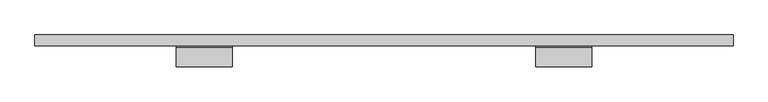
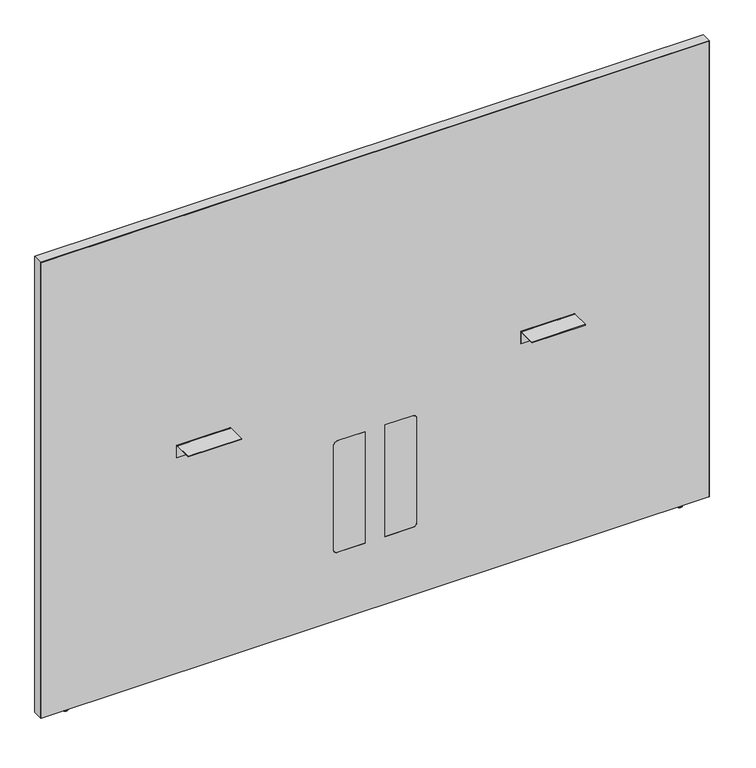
"""IFC4 building model written with IfcOpenShell, lengths in millimetres: furniture geometry, Steelcase - Answer Solution - Boundary Screen - Straight - Spanning : 54H x 75W."""

from ifc_helpers import new_model, si_unit, point, frame, frame_2d, origin, place, context, project, spatial, polyline, circle_curve, ellipse_curve, trimmed, segment, composite_curve, outline, extrude, source, transform, mapped, element, save
from ifc_brep_helpers import plane_surface, cylinder_surface, revolved_surface, advanced_brep


def furniture_78d4702f(model_context):
    return source(origin(), model_context, "Body", "SolidModel", [
        advanced_brep(
        [(-645.4902705, -14.8449166, 9.9059849), (-645.4902705, -5.9309607, 9.9059849), (-645.4902705, -23.7588726, 9.9059849), (-645.4902705, -5.9309607, 2.9673238), (-645.4902705, -23.7588726, 2.9673238), (-645.4902705, -6.8982978, 2.9673238), (-645.4902705, -22.7915354, 2.9673238), (-645.4902705, -6.8982978, 1.6569081), (-645.4902705, -22.7915354, 1.6569081), (-645.4902705, -8.5552059, 0.0), (-645.4902705, -21.1346274, 0.0), (-645.4902705, -14.8449166, 0.0)],
        [
            (0, 1),
            (1, 2, circle_curve(frame((-645.4902705, -14.8449166, 9.9059849), z_axis=(0.0, 0.0, 1.0), x_axis=(0.0, 1.0, 0.0)), 8.913956)),
            (2, 0),
            (2, 1, circle_curve(frame((-645.4902705, -14.8449166, 9.9059849), z_axis=(0.0, 0.0, 1.0), x_axis=(0.0, 1.0, 0.0)), 8.913956)),
            (1, 3),
            (3, 4, circle_curve(frame((-645.4902705, -14.8449166, 2.9673238), z_axis=(0.0, 0.0, 1.0), x_axis=(0.0, 1.0, 0.0)), 8.913956)),
            (4, 2),
            (4, 3, circle_curve(frame((-645.4902705, -14.8449166, 2.9673238), z_axis=(0.0, 0.0, 1.0), x_axis=(0.0, 1.0, 0.0)), 8.913956)),
            (3, 5),
            (5, 6, circle_curve(frame((-645.4902705, -14.8449166, 2.9673238), z_axis=(0.0, 0.0, 1.0), x_axis=(0.0, 1.0, 0.0)), 7.9466188)),
            (6, 4),
            (6, 5, circle_curve(frame((-645.4902705, -14.8449166, 2.9673238), z_axis=(0.0, 0.0, 1.0), x_axis=(0.0, 1.0, 0.0)), 7.9466188)),
            (5, 7),
            (7, 8, circle_curve(frame((-645.4902705, -14.8449166, 1.6569081), z_axis=(0.0, 0.0, 1.0), x_axis=(0.0, 1.0, 0.0)), 7.9466188)),
            (8, 6),
            (8, 7, circle_curve(frame((-645.4902705, -14.8449166, 1.6569081), z_axis=(0.0, 0.0, 1.0), x_axis=(0.0, 1.0, 0.0)), 7.9466188)),
            (7, 9, circle_curve(frame((-645.4902705, -8.5552059, 1.6569081), z_axis=(-1.0, 0.0, 0.0), x_axis=(0.0, 1.0, 0.0)), 1.6569081)),
            (9, 10, circle_curve(frame((-645.4902705, -14.8449166, 0.0), z_axis=(0.0, 0.0, 1.0), x_axis=(0.0, 1.0, 0.0)), 6.2897107)),
            (10, 8, circle_curve(frame((-645.4902705, -21.1346274, 1.6569081), z_axis=(-1.0, 0.0, 0.0), x_axis=(0.0, -1.0, 0.0)), 1.6569081)),
            (10, 9, circle_curve(frame((-645.4902705, -14.8449166, 0.0), z_axis=(0.0, 0.0, 1.0), x_axis=(0.0, 1.0, 0.0)), 6.2897107)),
            (9, 11),
            (11, 10),
        ],
        [
            plane_surface(frame((-645.4902705, -14.8449166, 9.9059849), z_axis=(0.0, 0.0, 1.0), x_axis=(0.0, 1.0, 0.0))),
            cylinder_surface(frame((-645.4902705, -14.8449166, 9.9059849), z_axis=(0.0, 0.0, 1.0), x_axis=(0.0, 1.0, 0.0)), 8.913956),
            plane_surface(frame((-645.4902705, -14.8449166, 2.9673238), z_axis=(0.0, 0.0, -1.0), x_axis=(0.0, 1.0, 0.0))),
            cylinder_surface(frame((-645.4902705, -14.8449166, 9.9059849), z_axis=(0.0, 0.0, 1.0), x_axis=(0.0, 1.0, 0.0)), 7.9466188),
            revolved_surface(trimmed(ellipse_curve(frame((-645.4902705, -8.5552059, 1.6569081), z_axis=(1.0, 0.0, 0.0), x_axis=(0.0, 1.0, 0.0)), 1.6569081, 1.6569081), [point((-645.4902705, -8.5552059, 0.0))], [point((-645.4902705, -6.8982978, 1.6569081))], True, "CARTESIAN"), (-645.4902705, -14.8449166, 9.9059849), (0.0, 0.0, 1.0)),
            plane_surface(frame((-645.4902705, -14.8449166, 0.0), z_axis=(0.0, 0.0, -1.0), x_axis=(0.0, 1.0, 0.0))),
        ],
        [
            (0, [[1, 2, 3]]),
            (0, [[-3, 4, -1]]),
            (1, [[-2, 5, 6, 7]]),
            (1, [[-4, -7, 8, -5]]),
            (2, [[-6, 9, 10, 11]]),
            (2, [[-8, -11, 12, -9]]),
            (3, [[-10, 13, 14, 15]]),
            (3, [[-12, -15, 16, -13]]),
            (4, [[-14, 17, 18, 19]]),
            (4, [[-16, -19, 20, -17]]),
            (5, [[-18, 21, 22]]),
            (5, [[-20, -22, -21]]),
        ],
    ),
        extrude(outline(composite_curve([segment(polyline([(-86.8398151, 696.4680019), (-86.8398151, 698.5), (-34.9450855, 698.5)]), True, "CONTINUOUS"), segment(trimmed(circle_curve(frame_2d((-34.9450855, 693.2447477)), 5.2552523), [point((-34.9450855, 698.5))], [point((-29.6898332, 693.2447477))], False, "CARTESIAN"), True, "CONTINUOUS"), segment(polyline([(-29.6898332, 693.2447477), (-29.6898332, 660.4), (-31.7218162, 660.4), (-31.7218162, 693.0058743)]), True, "CONTINUOUS"), segment(trimmed(circle_curve(frame_2d((-35.1839438, 693.0058743)), 3.4621276), [point((-31.7218162, 693.0058743))], [point((-35.1839438, 696.4680019))], True, "CARTESIAN"), True, "CONTINUOUS"), segment(polyline([(-35.1839438, 696.4680019), (-86.8398151, 696.4680019)]), True, "CONTINUOUS")], self_intersect=False)), frame((644.0282189, 0.0, 0.0), z_axis=(1.0, 0.0, 0.0), x_axis=(0.0, 1.0, 0.0)), (0.0, 0.0, 1.0), 152.4000969),
        extrude(outline(composite_curve([segment(polyline([(-86.8398151, 696.4680019), (-86.8398151, 698.5), (-34.9450855, 698.5)]), True, "CONTINUOUS"), segment(trimmed(circle_curve(frame_2d((-34.9450855, 693.2447477)), 5.2552523), [point((-34.9450855, 698.5))], [point((-29.6898332, 693.2447477))], False, "CARTESIAN"), True, "CONTINUOUS"), segment(polyline([(-29.6898332, 693.2447477), (-29.6898332, 660.4), (-31.7218162, 660.4), (-31.7218162, 693.0058743)]), True, "CONTINUOUS"), segment(trimmed(circle_curve(frame_2d((-35.1839438, 693.0058743)), 3.4621276), [point((-31.7218162, 693.0058743))], [point((-35.1839438, 696.4680019))], True, "CARTESIAN"), True, "CONTINUOUS"), segment(polyline([(-35.1839438, 696.4680019), (-86.8398151, 696.4680019)]), True, "CONTINUOUS")], self_intersect=False)), frame((-336.7884581, 0.0, 0.0), z_axis=(1.0, 0.0, 0.0), x_axis=(0.0, 1.0, 0.0)), (0.0, 0.0, 1.0), 152.4000969),
        advanced_brep(
        [(1105.1286488, -23.7588726, 9.9059849), (1105.1286488, -5.9309607, 9.9059849), (1105.1286488, -14.8449166, 9.9059849), (1105.1286488, -23.7588726, 2.9673238), (1105.1286488, -5.9309607, 2.9673238), (1105.1286488, -22.7915354, 2.9673238), (1105.1286488, -6.8982978, 2.9673238), (1105.1286488, -22.7915354, 1.6569081), (1105.1286488, -6.8982978, 1.6569081), (1105.1286488, -21.1346274, 0.0), (1105.1286488, -8.5552059, 0.0), (1105.1286488, -14.8449166, 0.0)],
        [
            (0, 1, circle_curve(frame((1105.1286488, -14.8449166, 9.9059849), z_axis=(0.0, 0.0, 1.0), x_axis=(0.0, 1.0, 0.0)), 8.913956)),
            (1, 2),
            (2, 0),
            (1, 0, circle_curve(frame((1105.1286488, -14.8449166, 9.9059849), z_axis=(0.0, 0.0, 1.0), x_axis=(0.0, 1.0, 0.0)), 8.913956)),
            (3, 4, circle_curve(frame((1105.1286488, -14.8449166, 2.9673238), z_axis=(0.0, 0.0, 1.0), x_axis=(0.0, 1.0, 0.0)), 8.913956)),
            (4, 1),
            (0, 3),
            (4, 3, circle_curve(frame((1105.1286488, -14.8449166, 2.9673238), z_axis=(0.0, 0.0, 1.0), x_axis=(0.0, 1.0, 0.0)), 8.913956)),
            (5, 6, circle_curve(frame((1105.1286488, -14.8449166, 2.9673238), z_axis=(0.0, 0.0, 1.0), x_axis=(0.0, 1.0, 0.0)), 7.9466188)),
            (6, 4),
            (3, 5),
            (6, 5, circle_curve(frame((1105.1286488, -14.8449166, 2.9673238), z_axis=(0.0, 0.0, 1.0), x_axis=(0.0, 1.0, 0.0)), 7.9466188)),
            (7, 8, circle_curve(frame((1105.1286488, -14.8449166, 1.6569081), z_axis=(0.0, 0.0, 1.0), x_axis=(0.0, 1.0, 0.0)), 7.9466188)),
            (8, 6),
            (5, 7),
            (8, 7, circle_curve(frame((1105.1286488, -14.8449166, 1.6569081), z_axis=(0.0, 0.0, 1.0), x_axis=(0.0, 1.0, 0.0)), 7.9466188)),
            (9, 10, circle_curve(frame((1105.1286488, -14.8449166, 0.0), z_axis=(0.0, 0.0, 1.0), x_axis=(0.0, 1.0, 0.0)), 6.2897107)),
            (10, 8, circle_curve(frame((1105.1286488, -8.5552059, 1.6569081), z_axis=(1.0, 0.0, 0.0), x_axis=(0.0, 1.0, 0.0)), 1.6569081)),
            (7, 9, circle_curve(frame((1105.1286488, -21.1346274, 1.6569081), z_axis=(1.0, 0.0, 0.0), x_axis=(0.0, -1.0, 0.0)), 1.6569081)),
            (10, 9, circle_curve(frame((1105.1286488, -14.8449166, 0.0), z_axis=(0.0, 0.0, 1.0), x_axis=(0.0, 1.0, 0.0)), 6.2897107)),
            (11, 10),
            (9, 11),
        ],
        [
            plane_surface(frame((1105.1286488, -14.8449166, 9.9059849), z_axis=(0.0, 0.0, 1.0), x_axis=(0.0, 1.0, 0.0))),
            cylinder_surface(frame((1105.1286488, -14.8449166, 9.9059849), z_axis=(0.0, 0.0, -1.0), x_axis=(0.0, 1.0, 0.0)), 8.913956),
            plane_surface(frame((1105.1286488, -14.8449166, 2.9673238), z_axis=(0.0, 0.0, -1.0), x_axis=(0.0, 1.0, 0.0))),
            cylinder_surface(frame((1105.1286488, -14.8449166, 9.9059849), z_axis=(0.0, 0.0, -1.0), x_axis=(0.0, 1.0, 0.0)), 7.9466188),
            revolved_surface(trimmed(ellipse_curve(frame((1105.1286488, -8.5552059, 1.6569081), z_axis=(-1.0, 0.0, 0.0), x_axis=(0.0, 1.0, 0.0)), 1.6569081, 1.6569081), [point((1105.1286488, -6.8982978, 1.6569081))], [point((1105.1286488, -8.5552059, 0.0))], True, "CARTESIAN"), (1105.1286488, -14.8449166, 9.9059849), (0.0, 0.0, -1.0)),
            plane_surface(frame((1105.1286488, -14.8449166, 0.0), z_axis=(0.0, 0.0, -1.0), x_axis=(0.0, 1.0, 0.0))),
        ],
        [
            (0, [[1, 2, 3]]),
            (0, [[4, -3, -2]]),
            (1, [[5, 6, -1, 7]]),
            (1, [[8, -7, -4, -6]]),
            (2, [[9, 10, -5, 11]]),
            (2, [[12, -11, -8, -10]]),
            (3, [[13, 14, -9, 15]]),
            (3, [[16, -15, -12, -14]]),
            (4, [[17, 18, -13, 19]]),
            (4, [[20, -19, -16, -18]]),
            (5, [[21, -17, 22]]),
            (5, [[-22, -20, -21]]),
        ],
    ),
        advanced_brep(
        [(1181.2780168, 0.0, 1381.542118), (1181.2780168, 0.0, 9.9059849), (-721.6902221, 0.0, 9.9059849), (-721.6902221, 0.0, 1381.542118), (1181.2780168, -29.6898332, 1381.542118), (-721.6902221, -29.6898332, 1381.542118), (-721.6902221, -29.6898332, 9.9059849), (1181.2780168, -29.6898332, 9.9059849), (337.7883813, -29.6898332, 549.6162029), (347.9483813, -29.6898332, 539.4562029), (347.9483813, -29.6898332, 223.9362137), (337.7883813, -29.6898332, 213.7762137), (258.1344836, -29.6898332, 213.7762137), (258.1344836, -29.6898332, 549.6162029), (121.849997, -29.6898332, 549.6162029), (201.5038947, -29.6898332, 549.6162029), (201.5038947, -29.6898332, 213.7762137), (121.849997, -29.6898332, 213.7762137), (111.689997, -29.6898332, 223.9362137), (111.689997, -29.6898332, 539.4562029), (258.1344836, -29.0550397, 549.6162029), (337.7883813, -29.0550397, 549.6162029), (258.1344836, -29.0550397, 213.7762137), (337.7883813, -29.0550397, 213.7762137), (347.9483813, -29.0550397, 223.9362137), (347.9483813, -29.0550397, 539.4562029), (121.849997, -29.0550397, 549.6162029), (111.689997, -29.0550397, 539.4562029), (111.689997, -29.0550397, 223.9362137), (121.849997, -29.0550397, 213.7762137), (201.5038947, -29.0550397, 213.7762137), (201.5038947, -29.0550397, 549.6162029)],
        [
            (0, 1),
            (1, 2),
            (2, 3),
            (3, 0),
            (4, 5),
            (5, 6),
            (6, 7),
            (7, 4),
            (8, 9, circle_curve(frame((337.7883813, -29.6898332, 539.4562029), z_axis=(0.0, 1.0, 0.0), x_axis=(0.0, 0.0, 1.0)), 10.16)),
            (9, 10),
            (10, 11, circle_curve(frame((337.7883813, -29.6898332, 223.9362137), z_axis=(0.0, 1.0, 0.0), x_axis=(0.0, 0.0, 1.0)), 10.16)),
            (11, 12),
            (12, 13),
            (13, 8),
            (14, 15),
            (15, 16),
            (16, 17),
            (17, 18, circle_curve(frame((121.849997, -29.6898332, 223.9362137), z_axis=(0.0, 1.0, 0.0), x_axis=(0.0, 0.0, 1.0)), 10.16)),
            (18, 19),
            (19, 14, circle_curve(frame((121.849997, -29.6898332, 539.4562029), z_axis=(0.0, 1.0, 0.0), x_axis=(0.0, 0.0, 1.0)), 10.16)),
            (0, 4),
            (7, 1),
            (6, 2),
            (5, 3),
            (13, 20),
            (20, 21),
            (21, 8),
            (12, 22),
            (22, 20),
            (11, 23),
            (23, 22),
            (10, 24),
            (24, 23, circle_curve(frame((337.7883813, -29.0550397, 223.9362137), z_axis=(0.0, 1.0, 0.0), x_axis=(0.0, 0.0, 1.0)), 10.16)),
            (9, 25),
            (25, 24),
            (21, 25, circle_curve(frame((337.7883813, -29.0550397, 539.4562029), z_axis=(0.0, 1.0, 0.0), x_axis=(0.0, 0.0, 1.0)), 10.16)),
            (26, 27, circle_curve(frame((121.849997, -29.0550397, 539.4562029), z_axis=(0.0, -1.0, 0.0), x_axis=(0.0, 0.0, 1.0)), 10.16)),
            (27, 28),
            (28, 29, circle_curve(frame((121.849997, -29.0550397, 223.9362137), z_axis=(0.0, -1.0, 0.0), x_axis=(0.0, 0.0, 1.0)), 10.16)),
            (29, 30),
            (30, 31),
            (31, 26),
            (19, 27),
            (26, 14),
            (18, 28),
            (17, 29),
            (16, 30),
            (15, 31),
        ],
        [
            plane_surface(frame((1181.2780168, 0.0, 1381.542118), z_axis=(0.0, 1.0, 0.0), x_axis=(0.0, 0.0, -1.0))),
            plane_surface(frame((1181.2780168, -29.6898332, 1381.542118), z_axis=(0.0, -1.0, 0.0), x_axis=(0.0, 0.0, 1.0))),
            plane_surface(frame((1181.2780168, 0.0, 1381.542118), z_axis=(1.0, 0.0, 0.0), x_axis=(0.0, -1.0, 0.0))),
            plane_surface(frame((1181.2780168, 0.0, 9.9059849), z_axis=(0.0, 0.0, -1.0), x_axis=(0.0, -1.0, 0.0))),
            plane_surface(frame((-721.6902221, 0.0, 9.9059849), z_axis=(-1.0, 0.0, 0.0), x_axis=(0.0, -1.0, 0.0))),
            plane_surface(frame((-721.6902221, 0.0, 1381.542118), z_axis=(0.0, 0.0, 1.0), x_axis=(0.0, -1.0, 0.0))),
            plane_surface(frame((337.7883813, 0.0, 549.6162029), z_axis=(0.0, 0.0, -1.0), x_axis=(0.0, -1.0, 0.0))),
            plane_surface(frame((258.1344836, 0.0, 549.6162029), z_axis=(1.0, 0.0, 0.0), x_axis=(0.0, -1.0, 0.0))),
            plane_surface(frame((258.1344836, 0.0, 213.7762137), z_axis=(0.0, 0.0, 1.0), x_axis=(0.0, -1.0, 0.0))),
            revolved_surface(polyline([(337.7883813, -29.6898332, 234.0962137), (337.7883813, -29.0550397, 234.0962137)]), (337.7883813, -29.6898332, 223.9362137), (0.0, -1.0, 0.0)),
            plane_surface(frame((347.9483813, 0.0, 223.9362137), z_axis=(-1.0, 0.0, 0.0), x_axis=(0.0, -1.0, 0.0))),
            revolved_surface(polyline([(337.7883813, -29.6898332, 549.6162029), (337.7883813, -29.0550397, 549.6162029)]), (337.7883813, -29.6898332, 539.4562029), (0.0, -1.0, 0.0)),
            plane_surface(frame((347.9483813, -29.0550397, 549.6162029), z_axis=(0.0, -1.0, 0.0), x_axis=(0.0, 0.0, 1.0))),
            revolved_surface(polyline([(121.849997, -29.6898332, 549.6162029), (121.849997, -29.0550397, 549.6162029)]), (121.849997, -29.6898332, 539.4562029), (0.0, -1.0, 0.0)),
            plane_surface(frame((111.689997, 0.0, 539.4562029), z_axis=(1.0, 0.0, 0.0), x_axis=(0.0, -1.0, 0.0))),
            revolved_surface(polyline([(121.849997, -29.6898332, 234.0962137), (121.849997, -29.0550397, 234.0962137)]), (121.849997, -29.6898332, 223.9362137), (0.0, -1.0, 0.0)),
            plane_surface(frame((121.849997, 0.0, 213.7762137), z_axis=(0.0, 0.0, 1.0), x_axis=(0.0, -1.0, 0.0))),
            plane_surface(frame((201.5038947, 0.0, 213.7762137), z_axis=(-1.0, 0.0, 0.0), x_axis=(0.0, -1.0, 0.0))),
            plane_surface(frame((201.5038947, 0.0, 549.6162029), z_axis=(0.0, 0.0, -1.0), x_axis=(0.0, -1.0, 0.0))),
        ],
        [
            (0, [[1, 2, 3, 4]]),
            (1, [[5, 6, 7, 8], [9, 10, 11, 12, 13, 14], [15, 16, 17, 18, 19, 20]]),
            (2, [[-1, 21, -8, 22]]),
            (3, [[-2, -22, -7, 23]]),
            (4, [[-3, -23, -6, 24]]),
            (5, [[-4, -24, -5, -21]]),
            (6, [[-14, 25, 26, 27]]),
            (7, [[-13, 28, 29, -25]]),
            (8, [[-12, 30, 31, -28]]),
            (9, [[-11, 32, 33, -30]]),
            (10, [[-10, 34, 35, -32]]),
            (11, [[-9, -27, 36, -34]]),
            (12, [[-26, -29, -31, -33, -35, -36]]),
            (12, [[37, 38, 39, 40, 41, 42]]),
            (13, [[-20, 43, -37, 44]]),
            (14, [[-19, 45, -38, -43]]),
            (15, [[-18, 46, -39, -45]]),
            (16, [[-17, 47, -40, -46]]),
            (17, [[-16, 48, -41, -47]]),
            (18, [[-15, -44, -42, -48]]),
        ],
    ),
        extrude(outline(composite_curve([segment(polyline([(549.6162029, 337.7883813), (549.6162029, 258.1344836), (213.7762137, 258.1344836), (213.7762137, 337.7883813)]), True, "CONTINUOUS"), segment(trimmed(circle_curve(frame_2d((223.9362137, 337.7883813)), 10.16), [point((213.7762137, 337.7883813))], [point((223.9362137, 347.9483813))], False, "CARTESIAN"), True, "CONTINUOUS"), segment(polyline([(223.9362137, 347.9483813), (539.4562029, 347.9483813)]), True, "CONTINUOUS"), segment(trimmed(circle_curve(frame_2d((539.4562029, 337.7883813)), 10.16), [point((539.4562029, 347.9483813))], [point((549.6162029, 337.7883813))], False, "CARTESIAN"), True, "CONTINUOUS")], self_intersect=False)), frame((0.0, -29.6898332, 0.0), z_axis=(0.0, 1.0, 0.0), x_axis=(0.0, 0.0, 1.0)), (0.0, 0.0, 1.0), 0.6347935),
        extrude(outline(composite_curve([segment(trimmed(circle_curve(frame_2d((539.4562029, 121.849997)), 10.16), [point((549.6162029, 121.849997))], [point((539.4562029, 111.689997))], False, "CARTESIAN"), True, "CONTINUOUS"), segment(polyline([(539.4562029, 111.689997), (223.9362137, 111.689997)]), True, "CONTINUOUS"), segment(trimmed(circle_curve(frame_2d((223.9362137, 121.849997)), 10.16), [point((223.9362137, 111.689997))], [point((213.7762137, 121.849997))], False, "CARTESIAN"), True, "CONTINUOUS"), segment(polyline([(213.7762137, 121.849997), (213.7762137, 201.5038947), (549.6162029, 201.5038947), (549.6162029, 121.849997)]), True, "CONTINUOUS")], self_intersect=False)), frame((0.0, -29.6898332, 0.0), z_axis=(0.0, 1.0, 0.0), x_axis=(0.0, 0.0, 1.0)), (0.0, 0.0, 1.0), 0.6347935),
        extrude(outline(polyline([(1382.522, 1182.3191891), (1382.522, -722.6808109), (9.9059849, -722.6808109), (9.9059849, -721.6902221), (1381.542118, -721.6902221), (1381.542118, 1181.2780168), (9.9059849, 1181.2780168), (9.9059849, 1182.3191891), (1382.522, 1182.3191891)])), frame((0.0, -29.6898332, 0.0), z_axis=(0.0, 1.0, 0.0), x_axis=(0.0, 0.0, 1.0)), (0.0, 0.0, 1.0), 29.6898332),
    ])


if __name__ == "__main__":
    model = new_model("IFC4")
    model_context = context("Model", 3, world=origin())
    ifc_project = project(units=[si_unit("LENGTHUNIT", "METRE", prefix="MILLI")], contexts=[model_context])
    site = spatial("IfcSite", under=ifc_project)
    building = spatial("IfcBuilding", under=site)
    placement = place(None, origin())
    furniture_shape = furniture_78d4702f(model_context)
    element("IfcFurniture", 1, ObjectType="Steelcase - Answer Solution - Boundary Screen - Straight - Spanning : 54H x 75W", at=placement, inside=building, context=model_context, shape_type="MappedRepresentation", body=[
        mapped(furniture_shape, transform((0.0, 0.0, 0.0), x_axis=(1.0, 0.0, 0.0), y_axis=(0.0, 1.0, 0.0), z_axis=(0.0, 0.0, 1.0))),
    ])
    save(model, "model.ifc")
